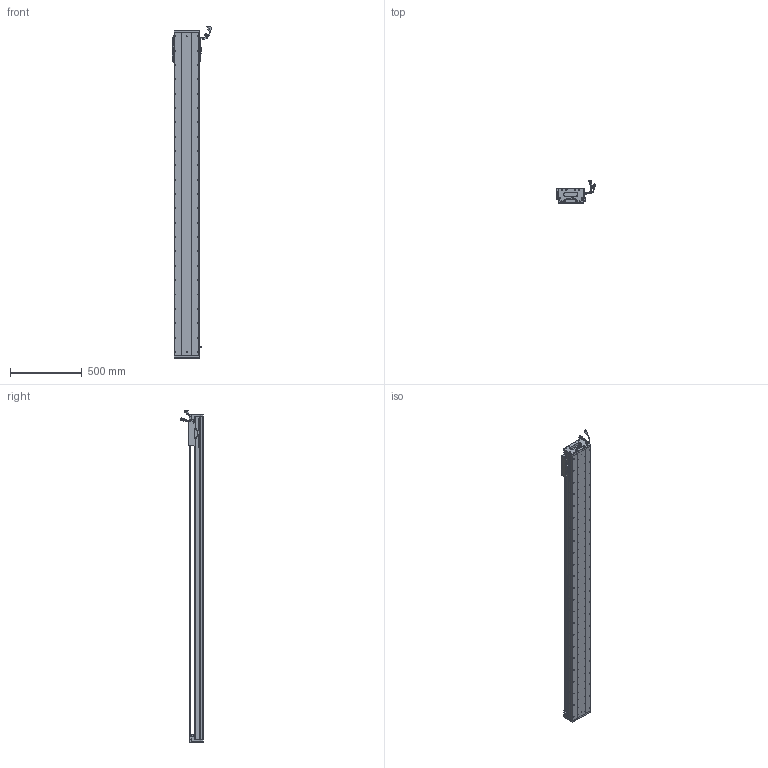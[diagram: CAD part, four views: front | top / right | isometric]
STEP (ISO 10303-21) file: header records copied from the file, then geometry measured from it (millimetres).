
FILE_DESCRIPTION (( 'STEP AP203' ), '1' );
FILE_NAME ('Z2-RY170D-1-L500-B-K.SLDASM_2000.step', '2021-05-17T09:09:36', ( '盈信电脑' ), ( '东莞市道滘镇水果街19号' ), 'SwSTEP 2.0', 'SolidWorks 2016', '' );
FILE_SCHEMA (( 'CONFIG_CONTROL_DESIGN' ));
Length unit declared in the file: millimetre
Products named in the file (36): SCREW-M1.6; PSLH080_PSLF2; SCALE-Part-1; SCREW-M1.6-2; SEAL; 080黍杅芛假蚾釱21遴; SCREW-M1.7-1; Z-RY170詩湍狟揤裔; 170-Z-臏賑輸盄裔(21遴); SHIELDPLATE; COVER; HOLDER0; HARNESS-Part-1; SCREW-M1.6-1; SCREW-M1.6-3; SEAL-Part-1; Z2-RY170-L500詩湍145mm遵_2000; Z-170詩湍傷裔啣; 140雄赽晤鎢ん堤盄; HARNESS-Part-2; 覜茼ん672; Z-RY170詩湍奻揤裔; SCALE; PBU_SHEET; SCREW-M1.7; 榋妏寠巭燃_暯_M2_2; Z2-RY170-L500耀郪菁釱_2000; Z2-RY170臏賑輸(21遴); SCALE-Part-2; COVER-Part-1; LABEL; 140蚥薯蝶輸; Z2-RY170D-1-L500-B-K.SLDASM_2000; LABEL-Part-1; HARNESS; RY170直线电机感应器672光电感应片
Assembly tree (41 placements, depth 4):
  Z2-RY170D-1-L500-B-K.SLDASM_2000
    Z2-RY170-L500耀郪菁釱_2000
    RY170直线电机感应器672光电感应片
    Z2-RY170臏賑輸(21遴)
    覜茼ん672  x3
    PSLH080_PSLF2
      SCALE
        SCALE-Part-1
        SCALE-Part-2
      HARNESS
        HARNESS-Part-1
        HARNESS-Part-2
      LABEL
        LABEL-Part-1
      COVER
        COVER-Part-1
      SEAL
        SEAL-Part-1
      榋妏寠巭燃_暯_M2_2
      SHIELDPLATE
      SCREW-M1.7
      SCREW-M1.7-1
      PBU_SHEET
      SCREW-M1.6
      SCREW-M1.6-1
      SCREW-M1.6-2
      SCREW-M1.6-3
      HOLDER0
    080黍杅芛假蚾釱21遴
    Z2-RY170-L500詩湍145mm遵_2000
    Z-170詩湍傷裔啣  x2
    Z-RY170詩湍奻揤裔  x2
    Z-RY170詩湍狟揤裔  x2
    140蚥薯蝶輸  x2
    170-Z-臏賑輸盄裔(21遴)
    140雄赽晤鎢ん堤盄
Bounding box: 275.34 x 158.11 x 2313.72 mm (x, y, z)
Volume: 11473025.8 mm3; surface area: 2840509.3 mm2
Topology: 36 solids, 36 shells, 3872 faces, 10695 edges, 6691 vertices
Faces by surface type: cylinder 1926, plane 1288, cone 536, torus 69, bspline 53
Entity records: 120999 total; most frequent: CARTESIAN_POINT 33572, ORIENTED_EDGE 17922, DIRECTION 16785, EDGE_CURVE 8961, AXIS2_PLACEMENT_3D 6178, VERTEX_POINT 5809, VECTOR 4429, LINE 4429
